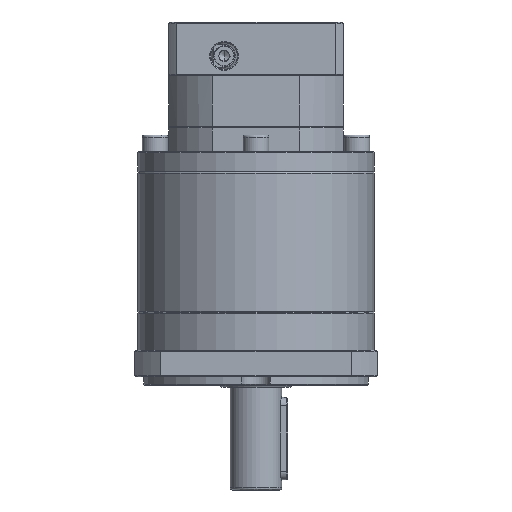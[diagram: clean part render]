
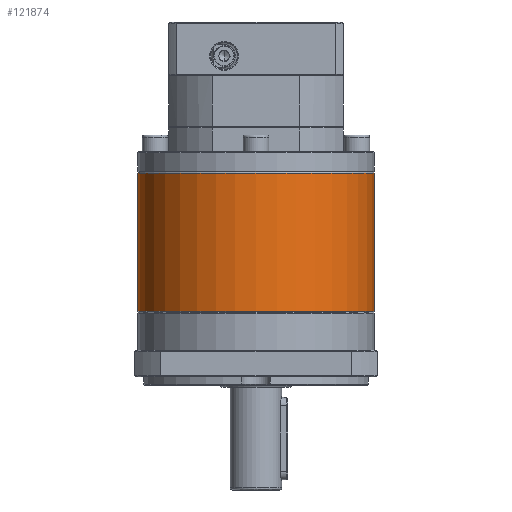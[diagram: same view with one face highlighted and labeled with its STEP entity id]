
A CAD part, front view. The second image highlights one B-rep face of the part: STEP entity #121874.
In plain terms, the highlighted cylindrical face has radius 57.5 mm (diameter 115 mm), a partial arc.
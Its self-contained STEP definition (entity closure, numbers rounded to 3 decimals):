
#913 = CYLINDRICAL_SURFACE ( 'NONE', #101520, 57.5 ) ;
#1985 = EDGE_CURVE ( 'NONE', #26211, #58165, #111613, .T. ) ;
#4026 = LINE ( 'NONE', #65878, #81263 ) ;
#5482 = DIRECTION ( 'NONE',  ( 0., 0., -1. ) ) ;
#8517 = AXIS2_PLACEMENT_3D ( 'NONE', #76536, #106027, #127176 ) ;
#15651 = DIRECTION ( 'NONE',  ( 0., 0., -1. ) ) ;
#18214 = FACE_OUTER_BOUND ( 'NONE', #110915, .T. ) ;
#24941 = VECTOR ( 'NONE', #49838, 1000. ) ;
#26211 = VERTEX_POINT ( 'NONE', #37527 ) ;
#26390 = EDGE_CURVE ( 'NONE', #68535, #55549, #64360, .T. ) ;
#27754 = AXIS2_PLACEMENT_3D ( 'NONE', #62046, #81880, #71832 ) ;
#29116 = ORIENTED_EDGE ( 'NONE', *, *, #54493, .T. ) ;
#29267 = AXIS2_PLACEMENT_3D ( 'NONE', #113599, #63342, #124159 ) ;
#32983 = CARTESIAN_POINT ( 'NONE',  ( 38.345, -9.944, 132.291 ) ) ;
#37527 = CARTESIAN_POINT ( 'NONE',  ( 38.345, -9.944, 199.502 ) ) ;
#48041 = VERTEX_POINT ( 'NONE', #32983 ) ;
#48342 = ORIENTED_EDGE ( 'NONE', *, *, #126417, .T. ) ;
#49838 = DIRECTION ( 'NONE',  ( 0., 0., -1. ) ) ;
#54493 = EDGE_CURVE ( 'NONE', #55549, #48041, #91525, .T. ) ;
#55549 = VERTEX_POINT ( 'NONE', #113609 ) ;
#58165 = VERTEX_POINT ( 'NONE', #85861 ) ;
#62046 = CARTESIAN_POINT ( 'NONE',  ( -19.155, -9.944, 132.291 ) ) ;
#63342 = DIRECTION ( 'NONE',  ( 0., 0., -1. ) ) ;
#64360 = LINE ( 'NONE', #90732, #24941 ) ;
#65878 = CARTESIAN_POINT ( 'NONE',  ( 38.345, -9.944, 200.002 ) ) ;
#67794 = CIRCLE ( 'NONE', #8517, 57.5 ) ;
#68535 = VERTEX_POINT ( 'NONE', #70757 ) ;
#70757 = CARTESIAN_POINT ( 'NONE',  ( -76.655, -9.944, 199.502 ) ) ;
#70954 = ORIENTED_EDGE ( 'NONE', *, *, #76096, .F. ) ;
#71832 = DIRECTION ( 'NONE',  ( -1., 0., 0. ) ) ;
#76096 = EDGE_CURVE ( 'NONE', #26211, #48041, #4026, .T. ) ;
#76536 = CARTESIAN_POINT ( 'NONE',  ( -19.155, -9.944, 199.502 ) ) ;
#77719 = ORIENTED_EDGE ( 'NONE', *, *, #26390, .T. ) ;
#81263 = VECTOR ( 'NONE', #5482, 1000. ) ;
#81880 = DIRECTION ( 'NONE',  ( 0., 0., 1. ) ) ;
#85861 = CARTESIAN_POINT ( 'NONE',  ( -19.155, -67.444, 199.502 ) ) ;
#90732 = CARTESIAN_POINT ( 'NONE',  ( -76.655, -9.944, 200.002 ) ) ;
#91525 = CIRCLE ( 'NONE', #27754, 57.5 ) ;
#101520 = AXIS2_PLACEMENT_3D ( 'NONE', #114846, #15651, #104644 ) ;
#104511 = ORIENTED_EDGE ( 'NONE', *, *, #1985, .T. ) ;
#104644 = DIRECTION ( 'NONE',  ( -1., 0., 0. ) ) ;
#106027 = DIRECTION ( 'NONE',  ( 0., 0., -1. ) ) ;
#110915 = EDGE_LOOP ( 'NONE', ( #70954, #104511, #48342, #77719, #29116 ) ) ;
#111613 = CIRCLE ( 'NONE', #29267, 57.5 ) ;
#113599 = CARTESIAN_POINT ( 'NONE',  ( -19.155, -9.944, 199.502 ) ) ;
#113609 = CARTESIAN_POINT ( 'NONE',  ( -76.655, -9.944, 132.291 ) ) ;
#114846 = CARTESIAN_POINT ( 'NONE',  ( -19.155, -9.944, 200.002 ) ) ;
#121874 = ADVANCED_FACE ( 'NONE', ( #18214 ), #913, .T. ) ;
#124159 = DIRECTION ( 'NONE',  ( -1., 0., 0. ) ) ;
#126417 = EDGE_CURVE ( 'NONE', #58165, #68535, #67794, .T. ) ;
#127176 = DIRECTION ( 'NONE',  ( -1., 0., 0. ) ) ;
